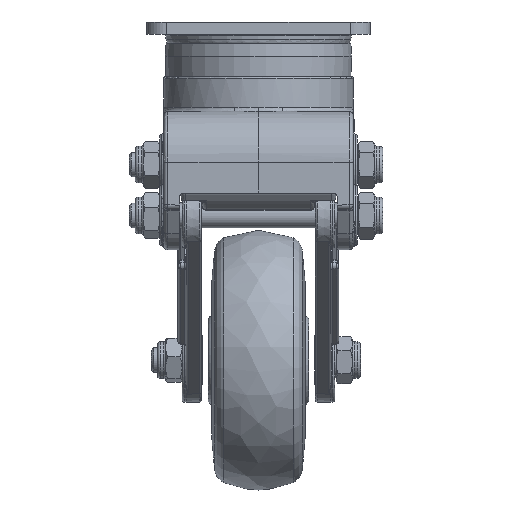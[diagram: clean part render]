
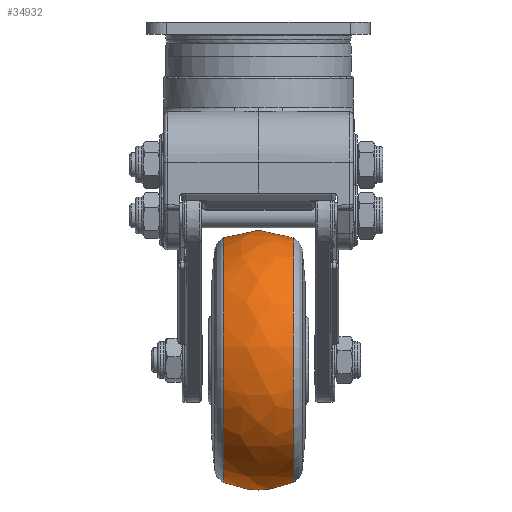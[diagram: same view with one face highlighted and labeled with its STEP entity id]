
A CAD part, left-side view. The second image highlights one B-rep face of the part: STEP entity #34932.
In plain terms, the highlighted free-form (B-spline) face has degree [2, 2] with [3, 9] control points.
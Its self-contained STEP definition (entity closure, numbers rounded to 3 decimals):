
#14=(
BOUNDED_SURFACE()
B_SPLINE_SURFACE(2,2,((#49400,#49401,#49402,#49403,#49404,#49405,#49406,
#49407,#49408),(#49409,#49410,#49411,#49412,#49413,#49414,#49415,#49416,
#49417),(#49418,#49419,#49420,#49421,#49422,#49423,#49424,#49425,#49426)),
 .UNSPECIFIED.,.F.,.T.,.F.)
B_SPLINE_SURFACE_WITH_KNOTS((3,3),(3,2,2,2,3),(-0.438,0.438),
(-3.142,-1.571,0.,1.571,3.142),
 .UNSPECIFIED.)
GEOMETRIC_REPRESENTATION_ITEM()
RATIONAL_B_SPLINE_SURFACE(((1.,0.707,1.,0.707,1.,
0.707,1.,0.707,1.),(0.906,0.64,
0.906,0.64,0.906,0.64,
0.906,0.64,0.906),(1.,0.707,
1.,0.707,1.,0.707,1.,0.707,1.)))
REPRESENTATION_ITEM('')
SURFACE()
);
#8226=FACE_OUTER_BOUND('',#10225,.T.);
#10225=EDGE_LOOP('',(#22576,#22577,#22578,#22579,#22580,#22581));
#12370=CIRCLE('',#37132,30.112);
#12371=CIRCLE('',#37133,30.112);
#12372=CIRCLE('',#37134,20.);
#12373=CIRCLE('',#37135,30.112);
#12374=CIRCLE('',#37136,30.112);
#13629=VERTEX_POINT('',#49427);
#13630=VERTEX_POINT('',#49428);
#13631=VERTEX_POINT('',#49431);
#13632=VERTEX_POINT('',#49433);
#17098=EDGE_CURVE('',#13629,#13630,#12370,.T.);
#17099=EDGE_CURVE('',#13630,#13629,#12371,.T.);
#17100=EDGE_CURVE('',#13630,#13631,#12372,.T.);
#17101=EDGE_CURVE('',#13631,#13632,#12373,.T.);
#17102=EDGE_CURVE('',#13632,#13631,#12374,.T.);
#22576=ORIENTED_EDGE('',*,*,#17098,.F.);
#22577=ORIENTED_EDGE('',*,*,#17099,.F.);
#22578=ORIENTED_EDGE('',*,*,#17100,.T.);
#22579=ORIENTED_EDGE('',*,*,#17101,.T.);
#22580=ORIENTED_EDGE('',*,*,#17102,.T.);
#22581=ORIENTED_EDGE('',*,*,#17100,.F.);
#34932=ADVANCED_FACE('',(#8226),#14,.F.);
#37132=AXIS2_PLACEMENT_3D('',#49429,#40176,#40177);
#37133=AXIS2_PLACEMENT_3D('',#49430,#40178,#40179);
#37134=AXIS2_PLACEMENT_3D('',#49432,#40180,#40181);
#37135=AXIS2_PLACEMENT_3D('',#49434,#40182,#40183);
#37136=AXIS2_PLACEMENT_3D('',#49435,#40184,#40185);
#40176=DIRECTION('center_axis',(0.,-1.,0.));
#40177=DIRECTION('ref_axis',(-0.282,0.,-0.959));
#40178=DIRECTION('center_axis',(0.,-1.,0.));
#40179=DIRECTION('ref_axis',(-0.282,0.,-0.959));
#40180=DIRECTION('center_axis',(-0.959,0.,
0.282));
#40181=DIRECTION('ref_axis',(0.282,0.,0.959));
#40182=DIRECTION('center_axis',(0.,-1.,0.));
#40183=DIRECTION('ref_axis',(-0.282,0.,-0.959));
#40184=DIRECTION('center_axis',(0.,-1.,0.));
#40185=DIRECTION('ref_axis',(-0.282,0.,-0.959));
#49400=CARTESIAN_POINT('Ctrl Pts',(5.943,-5.44,-49.684));
#49401=CARTESIAN_POINT('Ctrl Pts',(-22.948,-5.44,
-41.196));
#49402=CARTESIAN_POINT('Ctrl Pts',(-31.436,-5.44,
-70.087));
#49403=CARTESIAN_POINT('Ctrl Pts',(-39.924,-5.44,-98.978));
#49404=CARTESIAN_POINT('Ctrl Pts',(-11.033,-5.44,-107.466));
#49405=CARTESIAN_POINT('Ctrl Pts',(17.858,-5.44,-115.954));
#49406=CARTESIAN_POINT('Ctrl Pts',(26.346,-5.44,-87.063));
#49407=CARTESIAN_POINT('Ctrl Pts',(34.834,-5.44,-58.172));
#49408=CARTESIAN_POINT('Ctrl Pts',(5.943,-5.44,-49.684));
#49409=CARTESIAN_POINT('Ctrl Pts',(7.063,-13.922,-45.873));
#49410=CARTESIAN_POINT('Ctrl Pts',(-25.639,-13.922,
-36.265));
#49411=CARTESIAN_POINT('Ctrl Pts',(-35.247,-13.922,
-68.967));
#49412=CARTESIAN_POINT('Ctrl Pts',(-44.855,-13.922,-101.669));
#49413=CARTESIAN_POINT('Ctrl Pts',(-12.153,-13.922,
-111.277));
#49414=CARTESIAN_POINT('Ctrl Pts',(20.55,-13.922,-120.885));
#49415=CARTESIAN_POINT('Ctrl Pts',(30.158,-13.922,-88.183));
#49416=CARTESIAN_POINT('Ctrl Pts',(39.765,-13.922,-55.48));
#49417=CARTESIAN_POINT('Ctrl Pts',(7.063,-13.922,-45.873));
#49418=CARTESIAN_POINT('Ctrl Pts',(5.943,-22.405,-49.684));
#49419=CARTESIAN_POINT('Ctrl Pts',(-22.948,-22.405,-41.196));
#49420=CARTESIAN_POINT('Ctrl Pts',(-31.436,-22.405,
-70.087));
#49421=CARTESIAN_POINT('Ctrl Pts',(-39.924,-22.405,
-98.978));
#49422=CARTESIAN_POINT('Ctrl Pts',(-11.033,-22.405,
-107.466));
#49423=CARTESIAN_POINT('Ctrl Pts',(17.858,-22.405,-115.954));
#49424=CARTESIAN_POINT('Ctrl Pts',(26.346,-22.405,-87.063));
#49425=CARTESIAN_POINT('Ctrl Pts',(34.834,-22.405,-58.172));
#49426=CARTESIAN_POINT('Ctrl Pts',(5.943,-22.405,-49.684));
#49427=CARTESIAN_POINT('',(-11.033,-22.405,-107.466));
#49428=CARTESIAN_POINT('',(5.943,-22.405,-49.684));
#49429=CARTESIAN_POINT('Origin',(-2.545,-22.405,-78.575));
#49430=CARTESIAN_POINT('Origin',(-2.545,-22.405,-78.575));
#49431=CARTESIAN_POINT('',(5.943,-5.44,-49.684));
#49432=CARTESIAN_POINT('Origin',(0.838,-13.922,-67.061));
#49433=CARTESIAN_POINT('',(-11.033,-5.44,-107.466));
#49434=CARTESIAN_POINT('Origin',(-2.545,-5.44,-78.575));
#49435=CARTESIAN_POINT('Origin',(-2.545,-5.44,-78.575));
